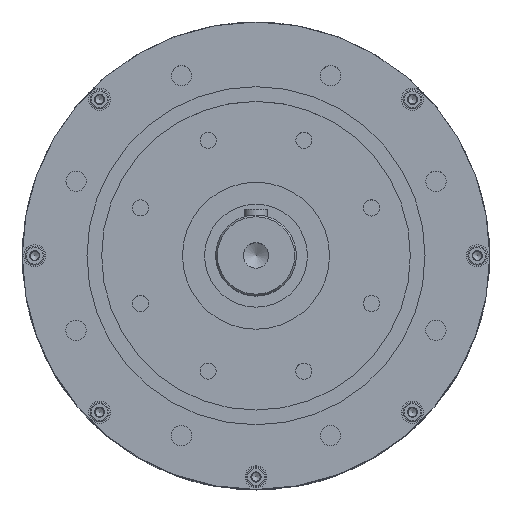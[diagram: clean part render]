
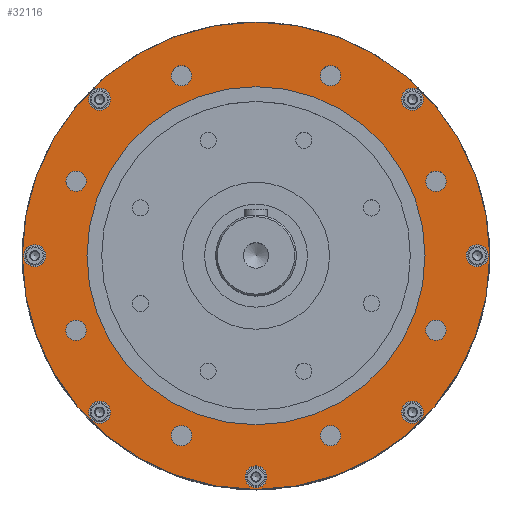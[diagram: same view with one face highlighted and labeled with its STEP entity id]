
A CAD part, top view. The second image highlights one B-rep face of the part: STEP entity #32116.
In plain terms, the highlighted planar face has unit normal (0, 0, 1).
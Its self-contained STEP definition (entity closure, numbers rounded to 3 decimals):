
#2544=PLANE('',#34227);
#3411=LINE('',#46285,#5247);
#5247=VECTOR('',#37556,0.31);
#7817=FACE_BOUND('',#10949,.T.);
#7818=FACE_BOUND('',#10950,.T.);
#7819=FACE_BOUND('',#10951,.T.);
#7820=FACE_BOUND('',#10952,.T.);
#7821=FACE_BOUND('',#10953,.T.);
#7822=FACE_BOUND('',#10954,.T.);
#7823=FACE_BOUND('',#10955,.T.);
#7824=FACE_BOUND('',#10956,.T.);
#7825=FACE_BOUND('',#10957,.T.);
#7826=FACE_BOUND('',#10958,.T.);
#7827=FACE_BOUND('',#10959,.T.);
#7828=FACE_BOUND('',#10960,.T.);
#7829=FACE_BOUND('',#10961,.T.);
#7830=FACE_BOUND('',#10962,.T.);
#7831=FACE_BOUND('',#10963,.T.);
#7832=FACE_BOUND('',#10964,.T.);
#7833=FACE_BOUND('',#10965,.T.);
#10949=EDGE_LOOP('',(#22818));
#10950=EDGE_LOOP('',(#22819));
#10951=EDGE_LOOP('',(#22820));
#10952=EDGE_LOOP('',(#22821));
#10953=EDGE_LOOP('',(#22822));
#10954=EDGE_LOOP('',(#22823));
#10955=EDGE_LOOP('',(#22824));
#10956=EDGE_LOOP('',(#22825));
#10957=EDGE_LOOP('',(#22826));
#10958=EDGE_LOOP('',(#22827));
#10959=EDGE_LOOP('',(#22828));
#10960=EDGE_LOOP('',(#22829));
#10961=EDGE_LOOP('',(#22830));
#10962=EDGE_LOOP('',(#22831));
#10963=EDGE_LOOP('',(#22832));
#10964=EDGE_LOOP('',(#22833,#22834,#22835));
#10965=EDGE_LOOP('',(#22836));
#13526=CIRCLE('',#34158,6.918);
#13527=CIRCLE('',#34160,6.918);
#13528=CIRCLE('',#34162,6.918);
#13529=CIRCLE('',#34164,6.918);
#13530=CIRCLE('',#34166,6.918);
#13531=CIRCLE('',#34168,6.918);
#13532=CIRCLE('',#34170,6.918);
#13533=CIRCLE('',#34172,6.918);
#13536=CIRCLE('',#34177,7.5);
#13539=CIRCLE('',#34183,7.5);
#13542=CIRCLE('',#34189,7.5);
#13545=CIRCLE('',#34195,7.5);
#13548=CIRCLE('',#34201,7.5);
#13551=CIRCLE('',#34207,7.5);
#13554=CIRCLE('',#34213,7.5);
#13555=CIRCLE('',#34216,115.);
#13560=CIRCLE('',#34226,159.);
#14996=VERTEX_POINT('',#46283);
#14997=VERTEX_POINT('',#46284);
#15036=VERTEX_POINT('',#46412);
#15037=VERTEX_POINT('',#46415);
#15038=VERTEX_POINT('',#46418);
#15039=VERTEX_POINT('',#46421);
#15040=VERTEX_POINT('',#46424);
#15041=VERTEX_POINT('',#46427);
#15042=VERTEX_POINT('',#46430);
#15043=VERTEX_POINT('',#46433);
#15046=VERTEX_POINT('',#46441);
#15049=VERTEX_POINT('',#46450);
#15052=VERTEX_POINT('',#46459);
#15055=VERTEX_POINT('',#46468);
#15058=VERTEX_POINT('',#46477);
#15061=VERTEX_POINT('',#46486);
#15064=VERTEX_POINT('',#46495);
#15065=VERTEX_POINT('',#46499);
#18180=EDGE_CURVE('',#14996,#14997,#3411,.T.);
#18225=EDGE_CURVE('',#15036,#15036,#13526,.T.);
#18226=EDGE_CURVE('',#15037,#15037,#13527,.T.);
#18227=EDGE_CURVE('',#15038,#15038,#13528,.T.);
#18228=EDGE_CURVE('',#15039,#15039,#13529,.T.);
#18229=EDGE_CURVE('',#15040,#15040,#13530,.T.);
#18230=EDGE_CURVE('',#15041,#15041,#13531,.T.);
#18231=EDGE_CURVE('',#15042,#15042,#13532,.T.);
#18232=EDGE_CURVE('',#15043,#15043,#13533,.T.);
#18235=EDGE_CURVE('',#15046,#15046,#13536,.T.);
#18238=EDGE_CURVE('',#15049,#15049,#13539,.T.);
#18241=EDGE_CURVE('',#15052,#15052,#13542,.T.);
#18244=EDGE_CURVE('',#15055,#15055,#13545,.T.);
#18247=EDGE_CURVE('',#15058,#15058,#13548,.T.);
#18250=EDGE_CURVE('',#15061,#15061,#13551,.T.);
#18253=EDGE_CURVE('',#15064,#15064,#13554,.T.);
#18254=EDGE_CURVE('',#15065,#15065,#13555,.T.);
#18259=EDGE_CURVE('',#14996,#14996,#13560,.T.);
#22818=ORIENTED_EDGE('',*,*,#18225,.T.);
#22819=ORIENTED_EDGE('',*,*,#18226,.T.);
#22820=ORIENTED_EDGE('',*,*,#18227,.T.);
#22821=ORIENTED_EDGE('',*,*,#18228,.T.);
#22822=ORIENTED_EDGE('',*,*,#18229,.T.);
#22823=ORIENTED_EDGE('',*,*,#18230,.T.);
#22824=ORIENTED_EDGE('',*,*,#18231,.T.);
#22825=ORIENTED_EDGE('',*,*,#18232,.T.);
#22826=ORIENTED_EDGE('',*,*,#18235,.T.);
#22827=ORIENTED_EDGE('',*,*,#18238,.T.);
#22828=ORIENTED_EDGE('',*,*,#18241,.T.);
#22829=ORIENTED_EDGE('',*,*,#18244,.T.);
#22830=ORIENTED_EDGE('',*,*,#18247,.T.);
#22831=ORIENTED_EDGE('',*,*,#18250,.T.);
#22832=ORIENTED_EDGE('',*,*,#18253,.T.);
#22833=ORIENTED_EDGE('',*,*,#18259,.T.);
#22834=ORIENTED_EDGE('',*,*,#18180,.T.);
#22835=ORIENTED_EDGE('',*,*,#18180,.F.);
#22836=ORIENTED_EDGE('',*,*,#18254,.F.);
#32116=ADVANCED_FACE('',(#7817,#7818,#7819,#7820,#7821,#7822,#7823,#7824,
#7825,#7826,#7827,#7828,#7829,#7830,#7831,#7832,#7833),#2544,.T.);
#34158=AXIS2_PLACEMENT_3D('',#46413,#37661,#37662);
#34160=AXIS2_PLACEMENT_3D('',#46416,#37665,#37666);
#34162=AXIS2_PLACEMENT_3D('',#46419,#37669,#37670);
#34164=AXIS2_PLACEMENT_3D('',#46422,#37673,#37674);
#34166=AXIS2_PLACEMENT_3D('',#46425,#37677,#37678);
#34168=AXIS2_PLACEMENT_3D('',#46428,#37681,#37682);
#34170=AXIS2_PLACEMENT_3D('',#46431,#37685,#37686);
#34172=AXIS2_PLACEMENT_3D('',#46434,#37689,#37690);
#34177=AXIS2_PLACEMENT_3D('',#46442,#37699,#37700);
#34183=AXIS2_PLACEMENT_3D('',#46451,#37711,#37712);
#34189=AXIS2_PLACEMENT_3D('',#46460,#37723,#37724);
#34195=AXIS2_PLACEMENT_3D('',#46469,#37735,#37736);
#34201=AXIS2_PLACEMENT_3D('',#46478,#37747,#37748);
#34207=AXIS2_PLACEMENT_3D('',#46487,#37759,#37760);
#34213=AXIS2_PLACEMENT_3D('',#46496,#37771,#37772);
#34216=AXIS2_PLACEMENT_3D('',#46500,#37777,#37778);
#34226=AXIS2_PLACEMENT_3D('',#46514,#37797,#37798);
#34227=AXIS2_PLACEMENT_3D('',#46515,#37799,#37800);
#37556=DIRECTION('',(0.,-1.,0.));
#37661=DIRECTION('center_axis',(0.,0.,-1.));
#37662=DIRECTION('ref_axis',(0.707,0.707,0.));
#37665=DIRECTION('center_axis',(0.,0.,-1.));
#37666=DIRECTION('ref_axis',(0.,1.,0.));
#37669=DIRECTION('center_axis',(0.,0.,-1.));
#37670=DIRECTION('ref_axis',(-0.707,0.707,0.));
#37673=DIRECTION('center_axis',(0.,0.,-1.));
#37674=DIRECTION('ref_axis',(-1.,0.,0.));
#37677=DIRECTION('center_axis',(0.,0.,-1.));
#37678=DIRECTION('ref_axis',(-0.707,-0.707,0.));
#37681=DIRECTION('center_axis',(0.,0.,-1.));
#37682=DIRECTION('ref_axis',(0.,-1.,0.));
#37685=DIRECTION('center_axis',(0.,0.,-1.));
#37686=DIRECTION('ref_axis',(0.707,-0.707,0.));
#37689=DIRECTION('center_axis',(0.,0.,-1.));
#37690=DIRECTION('ref_axis',(1.,0.,0.));
#37699=DIRECTION('center_axis',(0.,0.,-1.));
#37700=DIRECTION('ref_axis',(0.,1.,0.));
#37711=DIRECTION('center_axis',(0.,0.,-1.));
#37712=DIRECTION('ref_axis',(-0.707,0.707,0.));
#37723=DIRECTION('center_axis',(0.,0.,-1.));
#37724=DIRECTION('ref_axis',(-1.,0.,0.));
#37735=DIRECTION('center_axis',(0.,0.,-1.));
#37736=DIRECTION('ref_axis',(-0.707,-0.707,0.));
#37747=DIRECTION('center_axis',(0.,0.,-1.));
#37748=DIRECTION('ref_axis',(0.,-1.,0.));
#37759=DIRECTION('center_axis',(0.,0.,-1.));
#37760=DIRECTION('ref_axis',(0.707,-0.707,0.));
#37771=DIRECTION('center_axis',(0.,0.,-1.));
#37772=DIRECTION('ref_axis',(1.,0.,0.));
#37777=DIRECTION('center_axis',(0.,0.,1.));
#37778=DIRECTION('ref_axis',(1.,0.,0.));
#37797=DIRECTION('center_axis',(0.,0.,1.));
#37798=DIRECTION('ref_axis',(1.,0.,0.));
#37799=DIRECTION('center_axis',(0.,0.,1.));
#37800=DIRECTION('ref_axis',(0.,-1.,0.));
#46283=CARTESIAN_POINT('',(0.,159.,1.));
#46284=CARTESIAN_POINT('',(0.,158.69,1.));
#46285=CARTESIAN_POINT('',(0.,161.,1.));
#46412=CARTESIAN_POINT('',(-45.814,127.305,1.));
#46413=CARTESIAN_POINT('Origin',(-50.706,122.414,1.));
#46415=CARTESIAN_POINT('',(-122.414,57.623,1.));
#46416=CARTESIAN_POINT('Origin',(-122.414,50.706,1.));
#46418=CARTESIAN_POINT('',(-127.305,-45.814,1.));
#46419=CARTESIAN_POINT('Origin',(-122.414,-50.706,1.));
#46421=CARTESIAN_POINT('',(-57.623,-122.414,1.));
#46422=CARTESIAN_POINT('Origin',(-50.706,-122.414,1.));
#46424=CARTESIAN_POINT('',(45.814,-127.305,1.));
#46425=CARTESIAN_POINT('Origin',(50.706,-122.414,1.));
#46427=CARTESIAN_POINT('',(122.414,-57.623,1.));
#46428=CARTESIAN_POINT('Origin',(122.414,-50.706,1.));
#46430=CARTESIAN_POINT('',(127.305,45.814,1.));
#46431=CARTESIAN_POINT('Origin',(122.414,50.706,1.));
#46433=CARTESIAN_POINT('',(57.623,122.414,1.));
#46434=CARTESIAN_POINT('Origin',(50.706,122.414,1.));
#46441=CARTESIAN_POINT('',(-106.42,113.92,1.));
#46442=CARTESIAN_POINT('Origin',(-106.42,106.42,1.));
#46450=CARTESIAN_POINT('',(-155.803,5.303,1.));
#46451=CARTESIAN_POINT('Origin',(-150.5,0.,1.));
#46459=CARTESIAN_POINT('',(-113.92,-106.42,1.));
#46460=CARTESIAN_POINT('Origin',(-106.42,-106.42,1.));
#46468=CARTESIAN_POINT('',(-5.303,-155.803,1.));
#46469=CARTESIAN_POINT('Origin',(0.,-150.5,1.));
#46477=CARTESIAN_POINT('',(106.42,-113.92,1.));
#46478=CARTESIAN_POINT('Origin',(106.42,-106.42,1.));
#46486=CARTESIAN_POINT('',(155.803,-5.303,1.));
#46487=CARTESIAN_POINT('Origin',(150.5,0.,1.));
#46495=CARTESIAN_POINT('',(113.92,106.42,1.));
#46496=CARTESIAN_POINT('Origin',(106.42,106.42,1.));
#46499=CARTESIAN_POINT('',(0.,-115.,1.));
#46500=CARTESIAN_POINT('Origin',(0.,0.,1.));
#46514=CARTESIAN_POINT('Origin',(0.,0.,1.));
#46515=CARTESIAN_POINT('Origin',(0.,-115.,1.));
